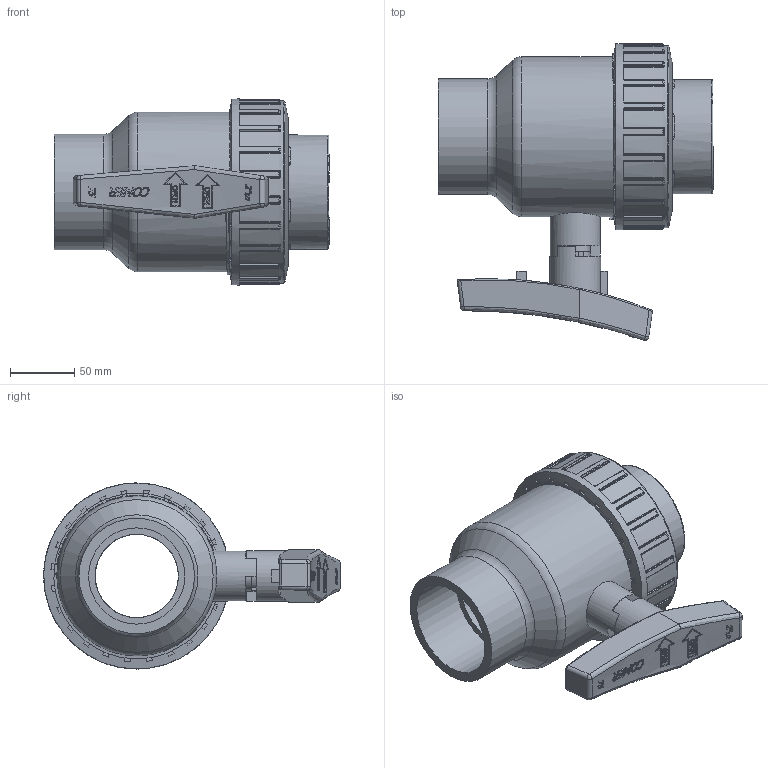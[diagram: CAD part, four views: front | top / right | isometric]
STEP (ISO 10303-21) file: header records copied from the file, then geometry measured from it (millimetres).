
FILE_DESCRIPTION(/* description */ (''),/* implementation_level */ '2;1');
FILE_NAME(/* name */ 'C:\ex desktop\VALVOLE SFERA\BV ACQUA\VALVOLE BVS MM\BVS40\BVS40075\BVS400750_new_handle.stp',/* time_stamp */ '2019-04-17T10:16:10+02:00',/* author */ ('e.sacchi'),/* organization */ (''),/* preprocessor_version */ 'ST-DEVELOPER v16.13',/* originating_system */ 'Autodesk Inventor 2018',/* authorisation */ '');
FILE_SCHEMA (('AUTOMOTIVE_DESIGN { 1 0 10303 214 3 1 1 }'));
Length unit declared in the file: millimetre
Products named in the file (12): BVS100750; CORPO_BVS_10_d_75; asta_BVD_40_d_75; sfera_BVI_10_d_75; maniglia_BVI_10_d_75; supporto_BVD_40_d_75; LAV4350E; LAV0174E_sotto_ptfe_d75; PTFE_BVI_10_d_75; collare_BVD_40_d_75; LAV6312E; ghiera_BVD_40_d_75
Assembly tree (13 placements, depth 2):
  BVS100750
    CORPO_BVS_10_d_75
    LAV0174E_sotto_ptfe_d75  x2
    PTFE_BVI_10_d_75  x2
    asta_BVD_40_d_75
    sfera_BVI_10_d_75
    maniglia_BVI_10_d_75
    supporto_BVD_40_d_75
    LAV4350E
    collare_BVD_40_d_75
    LAV6312E
    ghiera_BVD_40_d_75
Bounding box: 214.5 x 231.13 x 144.98 mm (x, y, z)
Volume: 1477183 mm3; surface area: 431251.7 mm2
Topology: 16 solids, 16 shells, 1601 faces, 4021 edges, 2520 vertices
Faces by surface type: plane 658, bspline 358, cylinder 351, torus 132, sphere 73, cone 29
Full cylindrical faces by diameter (mm): 9.7 x1, 12 x1, 19.6 x2, 23 x4, 23.65 x1, 32.75 x1, 39 x1, 39.6 x1, 65 x4, 70 x2, 75 x2, 78.5 x1, 80 x4, 88.9 x1, 90 x2, 95.169 x2, 98.8 x1, 102 x1, 103 x2, 104.6 x1, 108.6 x2, 124.6 x7, 126 x7, 142 x1, 145 x1
Entity records: 62509 total; most frequent: CARTESIAN_POINT 25825, ORIENTED_EDGE 7808, DIRECTION 7131, EDGE_CURVE 3902, AXIS2_PLACEMENT_3D 2648, VERTEX_POINT 2477, LINE 1835, VECTOR 1835
